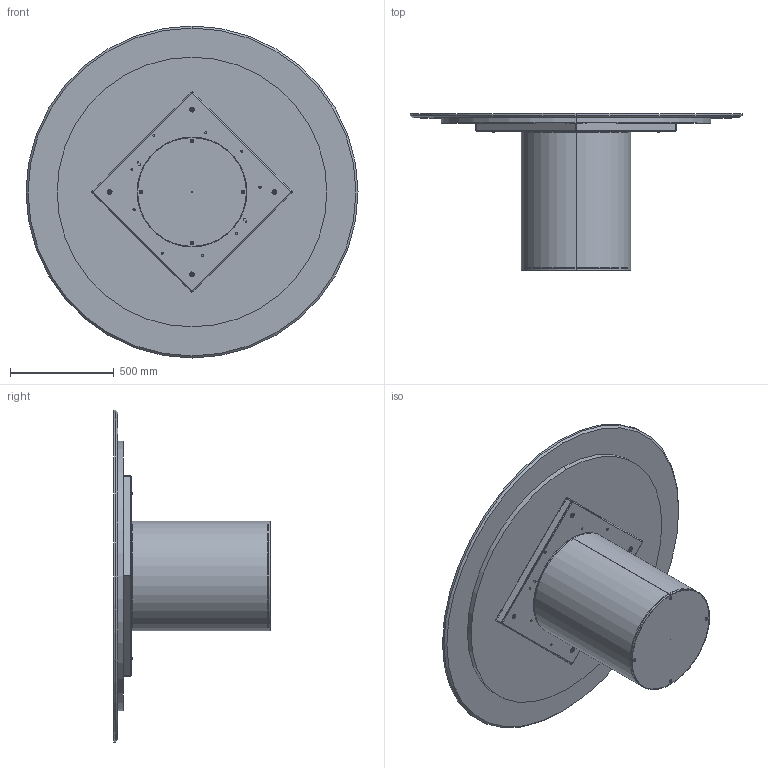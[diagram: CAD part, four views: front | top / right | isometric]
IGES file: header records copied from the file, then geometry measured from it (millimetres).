
Start section: SolidWorks IGES file using analytic representation for surfaces
Global section: file name: Y:\eforma\TECNICO\SOLIDWORKS\E-FORMA\1-TAVOLI\CILINDRO\02 parts\CI08GM.IGS; native system: SolidWorks 2022; preprocessor: SolidWorks 2022; author: eforma.tech; date: 240808.090301; units: millimetre
Bounding box: 1600 x 755 x 1600 mm (x, y, z)
Volume: 80446113 mm3; surface area: 10994415.2 mm2
Topology: 24 solids, 24 shells, 874 faces, 2172 edges, 1319 vertices
Faces by surface type: revolution 492, plane 382
